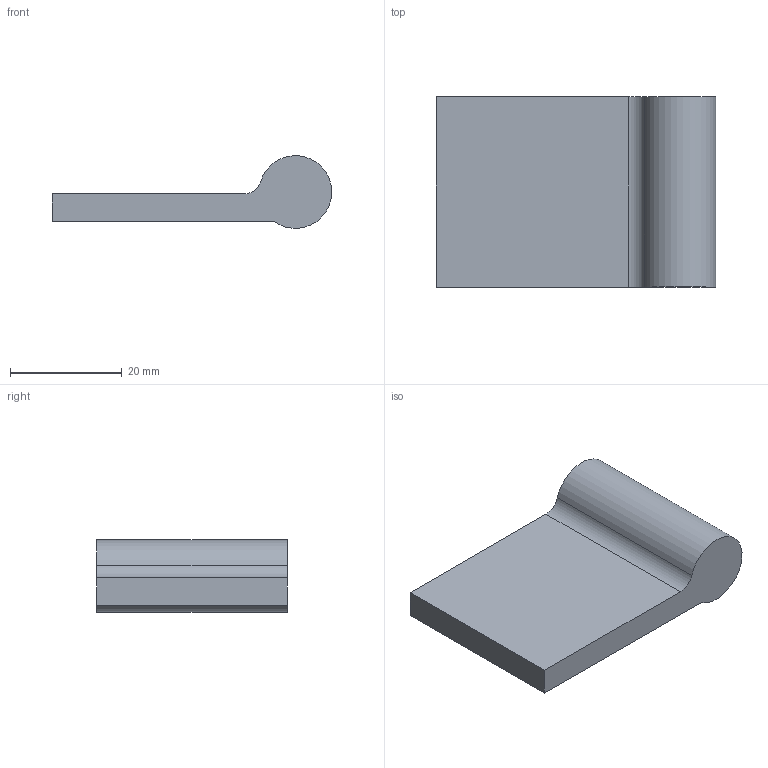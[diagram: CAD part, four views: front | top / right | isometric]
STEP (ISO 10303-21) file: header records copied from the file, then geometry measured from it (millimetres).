
FILE_DESCRIPTION(/* description */ (''),/* implementation_level */ '2;1');
FILE_NAME(/* name */ 'E:/devis client impression 3d/cotes d''armor habitat/paumelle alu/articulation A.step',/* time_stamp */ '2016-07-05T10:36:22+02:00',/* author */ (''),/* organization */ (''),/* preprocessor_version */ 'ST-DEVELOPER v16.5',/* originating_system */ 'Autodesk Translation Framework v5.1.0.2740',/* authorisation */ '');
FILE_SCHEMA (('AUTOMOTIVE_DESIGN { 1 0 10303 214 3 1 1 }'));
Length unit declared in the file: centimetre
Products named in the file (1): Untitled v1
Bounding box: 49.98 x 34 x 12.97 mm (x, y, z)
Volume: 9952.7 mm3; surface area: 5175.7 mm2
Topology: 1 solids, 1 shells, 9 faces, 18 edges, 12 vertices
Faces by surface type: plane 6, cylinder 3
Full cylindrical faces by diameter (mm): 7 x1
Entity records: 257 total; most frequent: DIRECTION 43, CARTESIAN_POINT 39, ORIENTED_EDGE 34, EDGE_CURVE 17, AXIS2_PLACEMENT_3D 16, VERTEX_POINT 12, LINE 11, VECTOR 11
